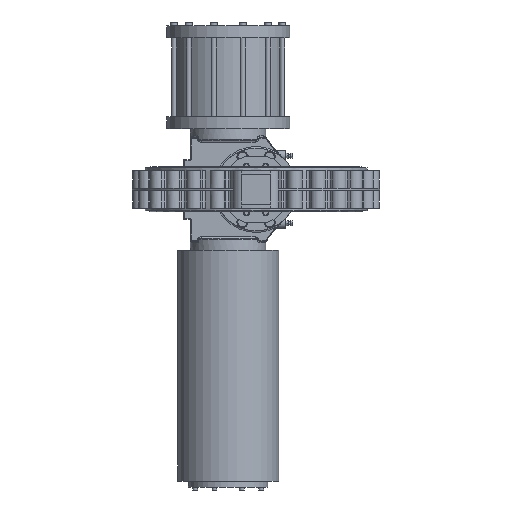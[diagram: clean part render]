
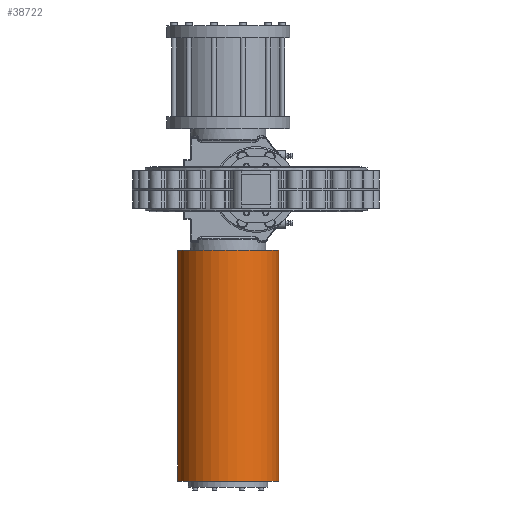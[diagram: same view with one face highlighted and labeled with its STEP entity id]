
A CAD part, front view. The second image highlights one B-rep face of the part: STEP entity #38722.
In plain terms, the highlighted cylindrical face has radius 254 mm (diameter 508 mm), a partial arc.
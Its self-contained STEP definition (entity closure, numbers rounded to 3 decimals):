
#266 = LINE ( 'NONE', #32729, #3368 ) ;
#619 = EDGE_CURVE ( 'NONE', #5776, #34192, #12723, .T. ) ;
#1938 = ORIENTED_EDGE ( 'NONE', *, *, #19003, .F. ) ;
#3167 = DIRECTION ( 'NONE',  ( 0., 0., -1. ) ) ;
#3368 = VECTOR ( 'NONE', #4733, 1000. ) ;
#4579 = CARTESIAN_POINT ( 'NONE',  ( 306., 0., 0. ) ) ;
#4733 = DIRECTION ( 'NONE',  ( 1., 0., 0. ) ) ;
#5776 = VERTEX_POINT ( 'NONE', #29297 ) ;
#6467 = FACE_OUTER_BOUND ( 'NONE', #36920, .T. ) ;
#9440 = EDGE_CURVE ( 'NONE', #34192, #31892, #25724, .T. ) ;
#12360 = CARTESIAN_POINT ( 'NONE',  ( 1466., 0., -254. ) ) ;
#12723 = CIRCLE ( 'NONE', #13483, 254. ) ;
#12821 = EDGE_CURVE ( 'NONE', #18447, #31892, #16605, .T. ) ;
#13483 = AXIS2_PLACEMENT_3D ( 'NONE', #4579, #43779, #40919 ) ;
#14487 = AXIS2_PLACEMENT_3D ( 'NONE', #46362, #28240, #3167 ) ;
#15714 = ORIENTED_EDGE ( 'NONE', *, *, #619, .T. ) ;
#16605 = CIRCLE ( 'NONE', #36333, 254. ) ;
#16990 = CARTESIAN_POINT ( 'NONE',  ( 1466., 0., 0. ) ) ;
#18447 = VERTEX_POINT ( 'NONE', #41015 ) ;
#18703 = ORIENTED_EDGE ( 'NONE', *, *, #12821, .F. ) ;
#19003 = EDGE_CURVE ( 'NONE', #5776, #18447, #266, .T. ) ;
#20054 = DIRECTION ( 'NONE',  ( 1., 0., 0. ) ) ;
#20902 = CYLINDRICAL_SURFACE ( 'NONE', #14487, 254. ) ;
#22163 = DIRECTION ( 'NONE',  ( 1., 0., 0. ) ) ;
#25724 = LINE ( 'NONE', #40268, #27745 ) ;
#27745 = VECTOR ( 'NONE', #22163, 1000. ) ;
#28240 = DIRECTION ( 'NONE',  ( 1., 0., 0. ) ) ;
#29297 = CARTESIAN_POINT ( 'NONE',  ( 306., 0., 254. ) ) ;
#31892 = VERTEX_POINT ( 'NONE', #12360 ) ;
#32729 = CARTESIAN_POINT ( 'NONE',  ( 0., 0., 254. ) ) ;
#32988 = CARTESIAN_POINT ( 'NONE',  ( 306., 0., -254. ) ) ;
#34003 = ORIENTED_EDGE ( 'NONE', *, *, #9440, .T. ) ;
#34192 = VERTEX_POINT ( 'NONE', #32988 ) ;
#36333 = AXIS2_PLACEMENT_3D ( 'NONE', #16990, #20054, #45516 ) ;
#36920 = EDGE_LOOP ( 'NONE', ( #1938, #15714, #34003, #18703 ) ) ;
#38722 = ADVANCED_FACE ( 'NONE', ( #6467 ), #20902, .T. ) ;
#40268 = CARTESIAN_POINT ( 'NONE',  ( 0., 0., -254. ) ) ;
#40919 = DIRECTION ( 'NONE',  ( 0., 0., -1. ) ) ;
#41015 = CARTESIAN_POINT ( 'NONE',  ( 1466., 0., 254. ) ) ;
#43779 = DIRECTION ( 'NONE',  ( 1., 0., 0. ) ) ;
#45516 = DIRECTION ( 'NONE',  ( 0., 0., -1. ) ) ;
#46362 = CARTESIAN_POINT ( 'NONE',  ( 0., 0., 0. ) ) ;
